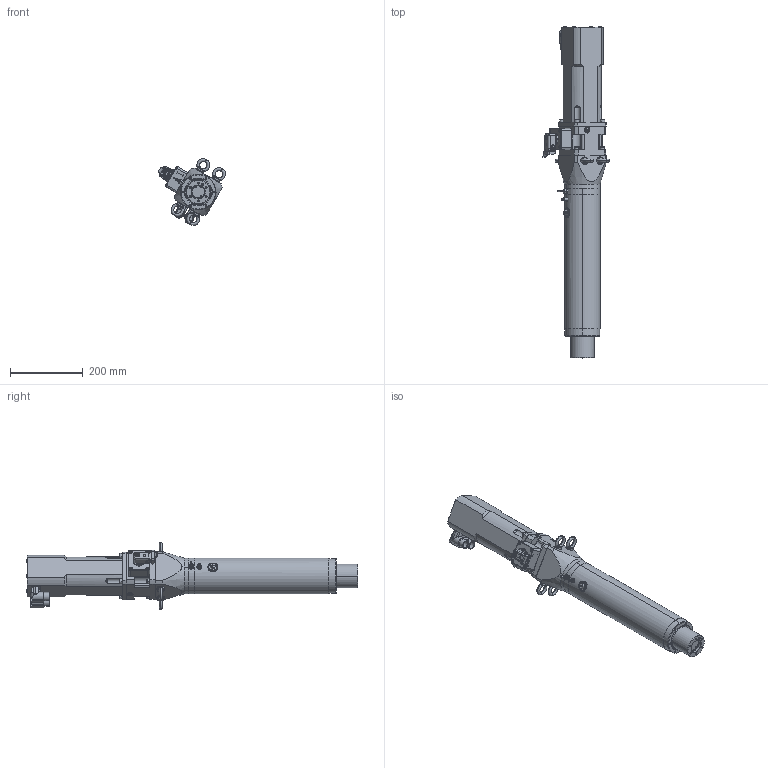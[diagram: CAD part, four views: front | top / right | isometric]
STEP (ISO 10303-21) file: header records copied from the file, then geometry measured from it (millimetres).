
FILE_DESCRIPTION (( 'STEP AP203' ), '1' );
FILE_NAME ('LN5I0100_020_030S.STEP', '2019-04-17T07:43:39', ( '' ), ( '' ), 'SwSTEP 2.0', 'SolidWorks 2016', '' );
FILE_SCHEMA (( 'CONFIG_CONTROL_DESIGN' ));
Products named in the file (1): LN5I0100_020_030S
Bounding box: 184.8 x 915 x 183.96 mm (x, y, z)
Volume: 6115683.1 mm3; surface area: 749334.1 mm2
Topology: 32 solids, 32 shells, 2295 faces, 5630 edges, 3464 vertices
Faces by surface type: plane 927, cylinder 762, cone 291, bspline 253, torus 60, sphere 2
Entity records: 95357 total; most frequent: CARTESIAN_POINT 43276, ORIENTED_EDGE 10928, DIRECTION 10389, EDGE_CURVE 5464, AXIS2_PLACEMENT_3D 3885, VERTEX_POINT 3464, EDGE_LOOP 2640, VECTOR 2619
